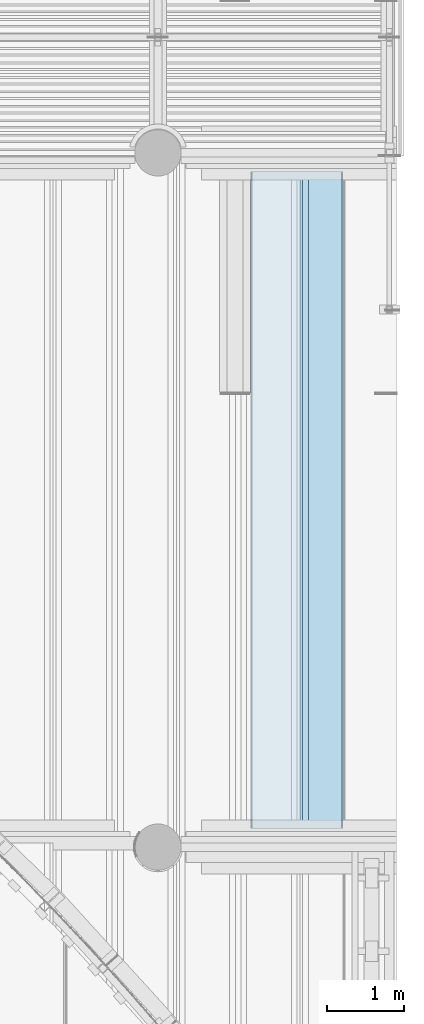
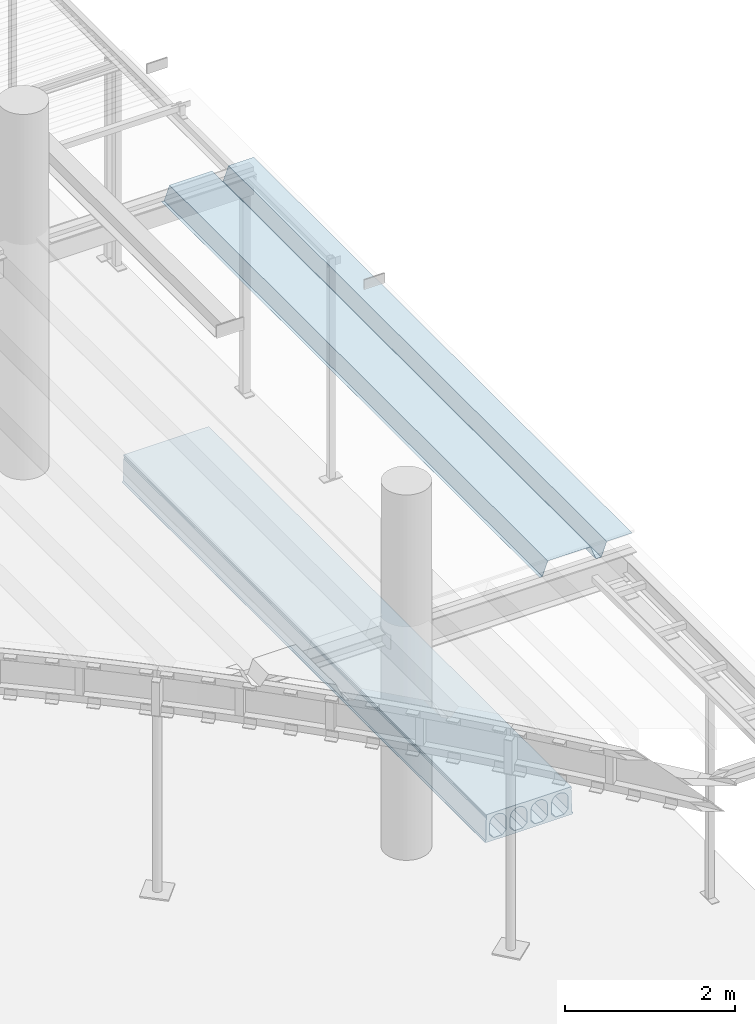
# One storey, part 74 of 98: 2 slabs.
"""IFC2X3 building model written with IfcOpenShell, lengths in millimetres."""

from ifc_helpers import new_model, entity, si_unit, converted_unit, derived_unit, direction, frame, origin_with_axes, place, context, subcontext, project, spatial, faceted_brep, material, type_object, element, save


model = new_model("IFC2X3")

# Units and contexts
model_context = context("Model", 3, precision=0.01, world=frame((0.0, 4.29681676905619e-09, 0.0)), true_north=direction((4.01073788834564e-13, 1.0)))
plan_context = context("Plan", 3, precision=0.01, world=frame((0.0, 4.29681676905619e-09, 0.0)), true_north=direction((4.01073788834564e-13, 1.0)))
body_context = subcontext(model_context, "Body", "Model", "MODEL_VIEW")
ifc_project = project(units=[converted_unit("PLANEANGLEUNIT", "DEGREE", entity("IfcPositiveLengthMeasure", 0.0174532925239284), si_unit("PLANEANGLEUNIT", "RADIAN"), dimensions=[0, 0, 0, 0, 0, 0, 0]), si_unit("AREAUNIT", "SQUARE_METRE"), si_unit("LENGTHUNIT", "METRE", prefix="MILLI"), si_unit("MASSUNIT", "GRAM", prefix="KILO"), si_unit("POWERUNIT", "WATT"), si_unit("PRESSUREUNIT", "PASCAL"), si_unit("FORCEUNIT", "NEWTON", prefix="KILO"), si_unit("ELECTRICCURRENTUNIT", "AMPERE"), si_unit("THERMODYNAMICTEMPERATUREUNIT", "DEGREE_CELSIUS"), si_unit("TIMEUNIT", "SECOND"), si_unit("VOLUMEUNIT", "CUBIC_METRE"), derived_unit("LINEARVELOCITYUNIT", [(si_unit("LENGTHUNIT", "METRE"), 1), (si_unit("TIMEUNIT", "SECOND"), -1)]), derived_unit("VOLUMETRICFLOWRATEUNIT", [(si_unit("VOLUMEUNIT", "CUBIC_METRE"), 1), (si_unit("TIMEUNIT", "SECOND"), -1)]), derived_unit("THERMALTRANSMITTANCEUNIT", [(si_unit("POWERUNIT", "WATT"), 1), (si_unit("THERMODYNAMICTEMPERATUREUNIT", "KELVIN"), -1), (si_unit("AREAUNIT", "SQUARE_METRE"), -1)])], contexts=[model_context, plan_context])

# Site, building, storey
site_placement = place(None, frame((0.0, -4.29681676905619e-09, 0.0), z_axis=(0.0, 0.0, 1.0), x_axis=(1.0, 0.0, 0.0)))
site = spatial("IfcSite", under=ifc_project, at=site_placement, Name="Gardermoen", CompositionType="ELEMENT")
building_placement = place(site_placement, frame((0.0, 4.29681676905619e-09, 0.0), z_axis=(0.0, 0.0, 1.0), x_axis=(1.0, 0.0, 0.0)))
building = spatial("IfcBuilding", under=site, at=building_placement, Name="TS", CompositionType="ELEMENT")
storey_placement = place(building_placement, origin_with_axes())
storey = spatial("IfcBuildingStorey", under=building, at=storey_placement, Name="D", CompositionType="ELEMENT", Elevation=0.0)

# Slabs
ifc_material = material(Name="CONCRETE/C45/55")
slab_type_1 = type_object("IfcSlabType", Name="HD400", PredefinedType="NOTDEFINED")
slab_1_placement = place(storey_placement, frame((530799.999766, 405739.995625, 203600.0), z_axis=(0.0, 0.0, 1.0), x_axis=(0.0, 1.0, 0.0)))
element("IfcSlab", 1, at=slab_1_placement, inside=storey, type_object=slab_type_1, material=ifc_material, Name="HULLDEKKE", ObjectType="HD400", PredefinedType="FLOOR", context=body_context, shape_type="Brep", body=[
    faceted_brep([(0.0, 600.0, -190.0), (0.0, 600.0, -180.0), (8520.00875000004, 600.0, -180.0), (8520.00875000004, 600.0, -190.0), (0.0, 585.0, -170.0), (8520.00875000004, 585.0, -170.0), (0.0, 577.5, 145.0), (8520.00875000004, 577.5, 145.0), (0.0, 570.0, 160.0), (8520.00875000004, 570.0, 160.0), (0.0, 577.5, 175.0), (8520.00875000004, 577.5, 175.0), (0.0, 577.5, 200.0), (8520.00875000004, 577.5, 200.0), (0.0, -577.5, 200.0), (8520.00875000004, -577.5, 200.0), (0.0, -577.5, 175.0), (8520.00875000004, -577.5, 175.0), (0.0, -570.0, 160.0), (8520.00875000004, -570.0, 160.0), (0.0, -577.5, 145.0), (8520.00875000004, -577.5, 145.0), (0.0, -585.0, -170.0), (8520.00875000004, -585.0, -170.0), (0.0, -600.0, -180.0), (8520.00875000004, -600.0, -180.0), (0.0, -600.0, -190.0), (8520.00875000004, -600.0, -190.0), (0.0, -583.380004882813, -200.0), (8520.00875000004, -583.380004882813, -200.0), (0.0, 583.380004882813, -200.0), (8520.00875000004, 583.380004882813, -200.0), (0.0, -362.5, -160.0), (0.0, -477.5, -160.0), (8520.00875000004, -477.5, -160.0), (8520.00875000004, -362.5, -160.0), (0.0, -532.5, -105.0), (8520.00875000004, -532.5, -105.0), (0.0, -532.5, 47.5), (8520.00875000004, -532.5, 47.5), (0.0, -532.115755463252, 56.7901763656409), (8520.00875000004, -532.115755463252, 56.7901763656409), (0.0, -530.965646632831, 66.0168914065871), (8520.00875000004, -530.965646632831, 66.0168914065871), (0.0, -529.057529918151, 75.1171173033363), (8520.00875000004, -529.057529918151, 75.1171173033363), (0.0, -526.404439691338, 84.028690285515), (8520.00875000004, -526.404439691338, 84.028690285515), (0.0, -523.024499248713, 92.6907352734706), (8520.00875000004, -523.024499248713, 92.6907352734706), (0.0, -518.940797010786, 101.044081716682), (8520.00875000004, -518.940797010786, 101.044081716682), (0.0, -514.181228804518, 109.031667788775), (8520.00875000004, -514.181228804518, 109.031667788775), (0.0, -508.778307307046, 116.598930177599), (8520.00875000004, -508.778307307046, 116.598930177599), (0.0, -502.768939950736, 123.694176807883), (8520.00875000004, -502.768939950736, 123.694176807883), (0.0, -496.194176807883, 130.268939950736), (8520.00875000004, -496.194176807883, 130.268939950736), (0.0, -489.098930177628, 136.278307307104), (8520.00875000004, -489.098930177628, 136.278307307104), (0.0, -481.531667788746, 141.681228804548), (8520.00875000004, -481.531667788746, 141.681228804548), (0.0, -473.544081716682, 146.440797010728), (8520.00875000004, -473.544081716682, 146.440797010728), (0.0, -465.190735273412, 150.524499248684), (8520.00875000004, -465.190735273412, 150.524499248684), (0.0, -456.528690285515, 153.904439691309), (8520.00875000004, -456.528690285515, 153.904439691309), (0.0, -447.617117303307, 156.55752991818), (8520.00875000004, -447.617117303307, 156.55752991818), (0.0, -438.516891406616, 158.465646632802), (8520.00875000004, -438.516891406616, 158.465646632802), (0.0, -429.290176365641, 159.615755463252), (8520.00875000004, -429.290176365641, 159.615755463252), (0.0, -420.0, 160.0), (8520.00875000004, -420.0, 160.0), (0.0, -410.709823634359, 159.615755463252), (8520.00875000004, -410.709823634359, 159.615755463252), (0.0, -401.483108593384, 158.465646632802), (8520.00875000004, -401.483108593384, 158.465646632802), (0.0, -392.382882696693, 156.55752991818), (8520.00875000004, -392.382882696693, 156.55752991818), (0.0, -383.471309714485, 153.904439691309), (8520.00875000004, -383.471309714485, 153.904439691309), (0.0, -374.809264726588, 150.524499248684), (8520.00875000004, -374.809264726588, 150.524499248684), (0.0, -366.455918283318, 146.440797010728), (8520.00875000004, -366.455918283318, 146.440797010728), (0.0, -358.468332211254, 141.681228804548), (8520.00875000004, -358.468332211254, 141.681228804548), (0.0, -350.901069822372, 136.278307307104), (8520.00875000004, -350.901069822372, 136.278307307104), (0.0, -343.805823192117, 130.268939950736), (8520.00875000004, -343.805823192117, 130.268939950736), (0.0, -337.231060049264, 123.694176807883), (8520.00875000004, -337.231060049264, 123.694176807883), (0.0, -331.221692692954, 116.598930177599), (8520.00875000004, -331.221692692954, 116.598930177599), (0.0, -325.818771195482, 109.031667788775), (8520.00875000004, -325.818771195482, 109.031667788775), (0.0, -321.059202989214, 101.044081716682), (8520.00875000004, -321.059202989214, 101.044081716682), (0.0, -316.975500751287, 92.6907352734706), (8520.00875000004, -316.975500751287, 92.6907352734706), (0.0, -313.595560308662, 84.028690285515), (8520.00875000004, -313.595560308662, 84.028690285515), (0.0, -310.942470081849, 75.1171173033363), (8520.00875000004, -310.942470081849, 75.1171173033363), (0.0, -309.034353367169, 66.0168914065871), (8520.00875000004, -309.034353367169, 66.0168914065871), (0.0, -307.884244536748, 56.7901763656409), (8520.00875000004, -307.884244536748, 56.7901763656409), (0.0, -307.5, 47.5), (8520.00875000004, -307.5, 47.5), (0.0, -307.5, -105.0), (8520.00875000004, -307.5, -105.0), (0.0, -82.5, -160.0), (0.0, -197.5, -160.0), (8520.00875000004, -197.5, -160.0), (8520.00875000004, -82.5, -160.0), (0.0, -252.5, -105.0), (8520.00875000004, -252.5, -105.0), (0.0, -252.5, 47.5), (8520.00875000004, -252.5, 47.5), (0.0, -252.115755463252, 56.7901763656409), (8520.00875000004, -252.115755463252, 56.7901763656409), (0.0, -250.965646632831, 66.0168914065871), (8520.00875000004, -250.965646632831, 66.0168914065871), (0.0, -249.057529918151, 75.1171173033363), (8520.00875000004, -249.057529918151, 75.1171173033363), (0.0, -246.404439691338, 84.028690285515), (8520.00875000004, -246.404439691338, 84.028690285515), (0.0, -243.024499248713, 92.6907352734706), (8520.00875000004, -243.024499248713, 92.6907352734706), (0.0, -238.940797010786, 101.044081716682), (8520.00875000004, -238.940797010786, 101.044081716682), (0.0, -234.181228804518, 109.031667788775), (8520.00875000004, -234.181228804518, 109.031667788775), (0.0, -228.778307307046, 116.598930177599), (8520.00875000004, -228.778307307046, 116.598930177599), (0.0, -222.768939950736, 123.694176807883), (8520.00875000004, -222.768939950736, 123.694176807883), (0.0, -216.194176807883, 130.268939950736), (8520.00875000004, -216.194176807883, 130.268939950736), (0.0, -209.098930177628, 136.278307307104), (8520.00875000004, -209.098930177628, 136.278307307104), (0.0, -201.531667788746, 141.681228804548), (8520.00875000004, -201.531667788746, 141.681228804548), (0.0, -193.544081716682, 146.440797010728), (8520.00875000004, -193.544081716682, 146.440797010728), (0.0, -185.190735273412, 150.524499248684), (8520.00875000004, -185.190735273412, 150.524499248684), (0.0, -176.528690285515, 153.904439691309), (8520.00875000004, -176.528690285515, 153.904439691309), (0.0, -167.617117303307, 156.55752991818), (8520.00875000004, -167.617117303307, 156.55752991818), (0.0, -158.516891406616, 158.465646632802), (8520.00875000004, -158.516891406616, 158.465646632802), (0.0, -149.290176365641, 159.615755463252), (8520.00875000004, -149.290176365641, 159.615755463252), (0.0, -140.0, 160.0), (8520.00875000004, -140.0, 160.0), (0.0, -130.709823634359, 159.615755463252), (8520.00875000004, -130.709823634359, 159.615755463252), (0.0, -121.483108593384, 158.465646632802), (8520.00875000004, -121.483108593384, 158.465646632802), (0.0, -112.382882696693, 156.55752991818), (8520.00875000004, -112.382882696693, 156.55752991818), (0.0, -103.471309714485, 153.904439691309), (8520.00875000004, -103.471309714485, 153.904439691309), (0.0, -94.8092647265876, 150.524499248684), (8520.00875000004, -94.8092647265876, 150.524499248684), (0.0, -86.4559182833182, 146.440797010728), (8520.00875000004, -86.4559182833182, 146.440797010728), (0.0, -78.4683322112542, 141.681228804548), (8520.00875000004, -78.4683322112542, 141.681228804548), (0.0, -70.9010698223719, 136.278307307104), (8520.00875000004, -70.9010698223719, 136.278307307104), (0.0, -63.8058231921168, 130.268939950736), (8520.00875000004, -63.8058231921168, 130.268939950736), (0.0, -57.2310600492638, 123.694176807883), (8520.00875000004, -57.2310600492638, 123.694176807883), (0.0, -51.2216926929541, 116.598930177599), (8520.00875000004, -51.2216926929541, 116.598930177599), (0.0, -45.8187711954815, 109.031667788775), (8520.00875000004, -45.8187711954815, 109.031667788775), (0.0, -41.0592029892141, 101.044081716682), (8520.00875000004, -41.0592029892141, 101.044081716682), (0.0, -36.9755007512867, 92.6907352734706), (8520.00875000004, -36.9755007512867, 92.6907352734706), (0.0, -33.5955603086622, 84.028690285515), (8520.00875000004, -33.5955603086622, 84.028690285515), (0.0, -30.942470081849, 75.1171173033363), (8520.00875000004, -30.942470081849, 75.1171173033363), (0.0, -29.0343533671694, 66.0168914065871), (8520.00875000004, -29.0343533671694, 66.0168914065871), (0.0, -27.8842445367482, 56.7901763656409), (8520.00875000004, -27.8842445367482, 56.7901763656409), (0.0, -27.5, 47.5), (8520.00875000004, -27.5, 47.5), (0.0, -27.5, -105.0), (8520.00875000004, -27.5, -105.0), (0.0, 197.5, -160.0), (0.0, 82.5, -160.0), (8520.00875000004, 82.5, -160.0), (8520.00875000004, 197.5, -160.0), (0.0, 27.5, -105.0), (8520.00875000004, 27.5, -105.0), (0.0, 27.5, 47.5), (8520.00875000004, 27.5, 47.5), (0.0, 27.8842445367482, 56.7901763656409), (8520.00875000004, 27.8842445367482, 56.7901763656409), (0.0, 29.0343533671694, 66.0168914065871), (8520.00875000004, 29.0343533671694, 66.0168914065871), (0.0, 30.942470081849, 75.1171173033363), (8520.00875000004, 30.942470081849, 75.1171173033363), (0.0, 33.5955603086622, 84.028690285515), (8520.00875000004, 33.5955603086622, 84.028690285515), (0.0, 36.9755007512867, 92.6907352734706), (8520.00875000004, 36.9755007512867, 92.6907352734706), (0.0, 41.0592029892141, 101.044081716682), (8520.00875000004, 41.0592029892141, 101.044081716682), (0.0, 45.8187711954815, 109.031667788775), (8520.00875000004, 45.8187711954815, 109.031667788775), (0.0, 51.2216926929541, 116.598930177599), (8520.00875000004, 51.2216926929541, 116.598930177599), (0.0, 57.2310600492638, 123.694176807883), (8520.00875000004, 57.2310600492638, 123.694176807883), (0.0, 63.8058231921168, 130.268939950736), (8520.00875000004, 63.8058231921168, 130.268939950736), (0.0, 70.9010698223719, 136.278307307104), (8520.00875000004, 70.9010698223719, 136.278307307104), (0.0, 78.4683322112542, 141.681228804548), (8520.00875000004, 78.4683322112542, 141.681228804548), (0.0, 86.4559182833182, 146.440797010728), (8520.00875000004, 86.4559182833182, 146.440797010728), (0.0, 94.8092647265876, 150.524499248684), (8520.00875000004, 94.8092647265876, 150.524499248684), (0.0, 103.471309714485, 153.904439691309), (8520.00875000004, 103.471309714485, 153.904439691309), (0.0, 112.382882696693, 156.55752991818), (8520.00875000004, 112.382882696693, 156.55752991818), (0.0, 121.483108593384, 158.465646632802), (8520.00875000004, 121.483108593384, 158.465646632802), (0.0, 130.709823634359, 159.615755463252), (8520.00875000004, 130.709823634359, 159.615755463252), (0.0, 140.0, 160.0), (8520.00875000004, 140.0, 160.0), (0.0, 149.290176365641, 159.615755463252), (8520.00875000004, 149.290176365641, 159.615755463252), (0.0, 158.516891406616, 158.465646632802), (8520.00875000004, 158.516891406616, 158.465646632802), (0.0, 167.617117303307, 156.55752991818), (8520.00875000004, 167.617117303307, 156.55752991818), (0.0, 176.528690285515, 153.904439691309), (8520.00875000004, 176.528690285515, 153.904439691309), (0.0, 185.190735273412, 150.524499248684), (8520.00875000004, 185.190735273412, 150.524499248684), (0.0, 193.544081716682, 146.440797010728), (8520.00875000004, 193.544081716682, 146.440797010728), (0.0, 201.531667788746, 141.681228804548), (8520.00875000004, 201.531667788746, 141.681228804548), (0.0, 209.098930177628, 136.278307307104), (8520.00875000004, 209.098930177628, 136.278307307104), (0.0, 216.194176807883, 130.268939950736), (8520.00875000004, 216.194176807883, 130.268939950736), (0.0, 222.768939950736, 123.694176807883), (8520.00875000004, 222.768939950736, 123.694176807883), (0.0, 228.778307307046, 116.598930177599), (8520.00875000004, 228.778307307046, 116.598930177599), (0.0, 234.181228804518, 109.031667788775), (8520.00875000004, 234.181228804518, 109.031667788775), (0.0, 238.940797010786, 101.044081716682), (8520.00875000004, 238.940797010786, 101.044081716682), (0.0, 243.024499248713, 92.6907352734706), (8520.00875000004, 243.024499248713, 92.6907352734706), (0.0, 246.404439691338, 84.028690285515), (8520.00875000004, 246.404439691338, 84.028690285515), (0.0, 249.057529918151, 75.1171173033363), (8520.00875000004, 249.057529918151, 75.1171173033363), (0.0, 250.965646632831, 66.0168914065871), (8520.00875000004, 250.965646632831, 66.0168914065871), (0.0, 252.115755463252, 56.7901763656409), (8520.00875000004, 252.115755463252, 56.7901763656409), (0.0, 252.5, 47.5), (8520.00875000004, 252.5, 47.5), (0.0, 252.5, -105.0), (8520.00875000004, 252.5, -105.0), (0.0, 477.5, -160.0), (0.0, 362.5, -160.0), (8520.00875000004, 362.5, -160.0), (8520.00875000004, 477.5, -160.0), (0.0, 307.5, -105.0), (8520.00875000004, 307.5, -105.0), (0.0, 307.5, 47.5), (8520.00875000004, 307.5, 47.5), (0.0, 307.884244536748, 56.7901763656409), (8520.00875000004, 307.884244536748, 56.7901763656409), (0.0, 309.034353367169, 66.0168914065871), (8520.00875000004, 309.034353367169, 66.0168914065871), (0.0, 310.942470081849, 75.1171173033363), (8520.00875000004, 310.942470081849, 75.1171173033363), (0.0, 313.595560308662, 84.028690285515), (8520.00875000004, 313.595560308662, 84.028690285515), (0.0, 316.975500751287, 92.6907352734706), (8520.00875000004, 316.975500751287, 92.6907352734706), (0.0, 321.059202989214, 101.044081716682), (8520.00875000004, 321.059202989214, 101.044081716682), (0.0, 325.818771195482, 109.031667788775), (8520.00875000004, 325.818771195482, 109.031667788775), (0.0, 331.221692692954, 116.598930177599), (8520.00875000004, 331.221692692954, 116.598930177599), (0.0, 337.231060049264, 123.694176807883), (8520.00875000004, 337.231060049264, 123.694176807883), (0.0, 343.805823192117, 130.268939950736), (8520.00875000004, 343.805823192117, 130.268939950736), (0.0, 350.901069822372, 136.278307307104), (8520.00875000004, 350.901069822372, 136.278307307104), (0.0, 358.468332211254, 141.681228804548), (8520.00875000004, 358.468332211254, 141.681228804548), (0.0, 366.455918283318, 146.440797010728), (8520.00875000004, 366.455918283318, 146.440797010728), (0.0, 374.809264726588, 150.524499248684), (8520.00875000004, 374.809264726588, 150.524499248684), (0.0, 383.471309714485, 153.904439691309), (8520.00875000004, 383.471309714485, 153.904439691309), (0.0, 392.382882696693, 156.55752991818), (8520.00875000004, 392.382882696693, 156.55752991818), (0.0, 401.483108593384, 158.465646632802), (8520.00875000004, 401.483108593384, 158.465646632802), (0.0, 410.709823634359, 159.615755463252), (8520.00875000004, 410.709823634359, 159.615755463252), (0.0, 420.0, 160.0), (8520.00875000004, 420.0, 160.0), (0.0, 429.290176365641, 159.615755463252), (8520.00875000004, 429.290176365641, 159.615755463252), (0.0, 438.516891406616, 158.465646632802), (8520.00875000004, 438.516891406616, 158.465646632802), (0.0, 447.617117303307, 156.55752991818), (8520.00875000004, 447.617117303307, 156.55752991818), (0.0, 456.528690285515, 153.904439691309), (8520.00875000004, 456.528690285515, 153.904439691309), (0.0, 465.190735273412, 150.524499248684), (8520.00875000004, 465.190735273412, 150.524499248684), (0.0, 473.544081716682, 146.440797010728), (8520.00875000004, 473.544081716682, 146.440797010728), (0.0, 481.531667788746, 141.681228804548), (8520.00875000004, 481.531667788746, 141.681228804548), (0.0, 489.098930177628, 136.278307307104), (8520.00875000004, 489.098930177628, 136.278307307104), (0.0, 496.194176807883, 130.268939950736), (8520.00875000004, 496.194176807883, 130.268939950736), (0.0, 502.768939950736, 123.694176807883), (8520.00875000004, 502.768939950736, 123.694176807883), (0.0, 508.778307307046, 116.598930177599), (8520.00875000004, 508.778307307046, 116.598930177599), (0.0, 514.181228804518, 109.031667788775), (8520.00875000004, 514.181228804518, 109.031667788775), (0.0, 518.940797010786, 101.044081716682), (8520.00875000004, 518.940797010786, 101.044081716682), (0.0, 523.024499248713, 92.6907352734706), (8520.00875000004, 523.024499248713, 92.6907352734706), (0.0, 526.404439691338, 84.028690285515), (8520.00875000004, 526.404439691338, 84.028690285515), (0.0, 529.057529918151, 75.1171173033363), (8520.00875000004, 529.057529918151, 75.1171173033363), (0.0, 530.965646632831, 66.0168914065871), (8520.00875000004, 530.965646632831, 66.0168914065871), (0.0, 532.115755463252, 56.7901763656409), (8520.00875000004, 532.115755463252, 56.7901763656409), (0.0, 532.5, 47.5), (8520.00875000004, 532.5, 47.5), (0.0, 532.5, -105.0), (8520.00875000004, 532.5, -105.0)], [[[0, 1, 2, 3]], [[1, 4, 5, 2]], [[4, 6, 7, 5]], [[6, 8, 9, 7]], [[8, 10, 11, 9]], [[10, 12, 13, 11]], [[12, 14, 15, 13]], [[14, 16, 17, 15]], [[16, 18, 19, 17]], [[18, 20, 21, 19]], [[20, 22, 23, 21]], [[22, 24, 25, 23]], [[24, 26, 27, 25]], [[26, 28, 29, 27]], [[28, 30, 31, 29]], [[30, 0, 3, 31]], [[32, 33, 34, 35]], [[33, 36, 37, 34]], [[36, 38, 39, 37]], [[38, 40, 41, 39]], [[40, 42, 43, 41]], [[42, 44, 45, 43]], [[44, 46, 47, 45]], [[46, 48, 49, 47]], [[48, 50, 51, 49]], [[50, 52, 53, 51]], [[52, 54, 55, 53]], [[54, 56, 57, 55]], [[56, 58, 59, 57]], [[58, 60, 61, 59]], [[60, 62, 63, 61]], [[62, 64, 65, 63]], [[64, 66, 67, 65]], [[66, 68, 69, 67]], [[68, 70, 71, 69]], [[70, 72, 73, 71]], [[72, 74, 75, 73]], [[74, 76, 77, 75]], [[76, 78, 79, 77]], [[78, 80, 81, 79]], [[80, 82, 83, 81]], [[82, 84, 85, 83]], [[84, 86, 87, 85]], [[86, 88, 89, 87]], [[88, 90, 91, 89]], [[90, 92, 93, 91]], [[92, 94, 95, 93]], [[94, 96, 97, 95]], [[96, 98, 99, 97]], [[98, 100, 101, 99]], [[100, 102, 103, 101]], [[102, 104, 105, 103]], [[104, 106, 107, 105]], [[106, 108, 109, 107]], [[108, 110, 111, 109]], [[110, 112, 113, 111]], [[112, 114, 115, 113]], [[114, 116, 117, 115]], [[116, 32, 35, 117]], [[118, 119, 120, 121]], [[119, 122, 123, 120]], [[122, 124, 125, 123]], [[124, 126, 127, 125]], [[126, 128, 129, 127]], [[128, 130, 131, 129]], [[130, 132, 133, 131]], [[132, 134, 135, 133]], [[134, 136, 137, 135]], [[136, 138, 139, 137]], [[138, 140, 141, 139]], [[140, 142, 143, 141]], [[142, 144, 145, 143]], [[144, 146, 147, 145]], [[146, 148, 149, 147]], [[148, 150, 151, 149]], [[150, 152, 153, 151]], [[152, 154, 155, 153]], [[154, 156, 157, 155]], [[156, 158, 159, 157]], [[158, 160, 161, 159]], [[160, 162, 163, 161]], [[162, 164, 165, 163]], [[164, 166, 167, 165]], [[166, 168, 169, 167]], [[168, 170, 171, 169]], [[170, 172, 173, 171]], [[172, 174, 175, 173]], [[174, 176, 177, 175]], [[176, 178, 179, 177]], [[178, 180, 181, 179]], [[180, 182, 183, 181]], [[182, 184, 185, 183]], [[184, 186, 187, 185]], [[186, 188, 189, 187]], [[188, 190, 191, 189]], [[190, 192, 193, 191]], [[192, 194, 195, 193]], [[194, 196, 197, 195]], [[196, 198, 199, 197]], [[198, 200, 201, 199]], [[200, 202, 203, 201]], [[202, 118, 121, 203]], [[204, 205, 206, 207]], [[205, 208, 209, 206]], [[208, 210, 211, 209]], [[210, 212, 213, 211]], [[212, 214, 215, 213]], [[214, 216, 217, 215]], [[216, 218, 219, 217]], [[218, 220, 221, 219]], [[220, 222, 223, 221]], [[222, 224, 225, 223]], [[224, 226, 227, 225]], [[226, 228, 229, 227]], [[228, 230, 231, 229]], [[230, 232, 233, 231]], [[232, 234, 235, 233]], [[234, 236, 237, 235]], [[236, 238, 239, 237]], [[238, 240, 241, 239]], [[240, 242, 243, 241]], [[242, 244, 245, 243]], [[244, 246, 247, 245]], [[246, 248, 249, 247]], [[248, 250, 251, 249]], [[250, 252, 253, 251]], [[252, 254, 255, 253]], [[254, 256, 257, 255]], [[256, 258, 259, 257]], [[258, 260, 261, 259]], [[260, 262, 263, 261]], [[262, 264, 265, 263]], [[264, 266, 267, 265]], [[266, 268, 269, 267]], [[268, 270, 271, 269]], [[270, 272, 273, 271]], [[272, 274, 275, 273]], [[274, 276, 277, 275]], [[276, 278, 279, 277]], [[278, 280, 281, 279]], [[280, 282, 283, 281]], [[282, 284, 285, 283]], [[284, 286, 287, 285]], [[286, 288, 289, 287]], [[288, 204, 207, 289]], [[290, 291, 292, 293]], [[291, 294, 295, 292]], [[294, 296, 297, 295]], [[296, 298, 299, 297]], [[298, 300, 301, 299]], [[300, 302, 303, 301]], [[302, 304, 305, 303]], [[304, 306, 307, 305]], [[306, 308, 309, 307]], [[308, 310, 311, 309]], [[310, 312, 313, 311]], [[312, 314, 315, 313]], [[314, 316, 317, 315]], [[316, 318, 319, 317]], [[318, 320, 321, 319]], [[320, 322, 323, 321]], [[322, 324, 325, 323]], [[324, 326, 327, 325]], [[326, 328, 329, 327]], [[328, 330, 331, 329]], [[330, 332, 333, 331]], [[332, 334, 335, 333]], [[334, 336, 337, 335]], [[336, 338, 339, 337]], [[338, 340, 341, 339]], [[340, 342, 343, 341]], [[342, 344, 345, 343]], [[344, 346, 347, 345]], [[346, 348, 349, 347]], [[348, 350, 351, 349]], [[350, 352, 353, 351]], [[352, 354, 355, 353]], [[354, 356, 357, 355]], [[356, 358, 359, 357]], [[358, 360, 361, 359]], [[360, 362, 363, 361]], [[362, 364, 365, 363]], [[364, 366, 367, 365]], [[366, 368, 369, 367]], [[368, 370, 371, 369]], [[370, 372, 373, 371]], [[372, 374, 375, 373]], [[374, 290, 293, 375]], [[5, 7, 9, 11, 13, 15, 17, 19, 21, 23, 25, 27, 29, 31, 3, 2], [295, 297, 299, 301, 303, 305, 307, 309, 311, 313, 315, 317, 319, 321, 323, 325, 327, 329, 331, 333, 335, 337, 339, 341, 343, 345, 347, 349, 351, 353, 355, 357, 359, 361, 363, 365, 367, 369, 371, 373, 375, 293, 292], [209, 211, 213, 215, 217, 219, 221, 223, 225, 227, 229, 231, 233, 235, 237, 239, 241, 243, 245, 247, 249, 251, 253, 255, 257, 259, 261, 263, 265, 267, 269, 271, 273, 275, 277, 279, 281, 283, 285, 287, 289, 207, 206], [123, 125, 127, 129, 131, 133, 135, 137, 139, 141, 143, 145, 147, 149, 151, 153, 155, 157, 159, 161, 163, 165, 167, 169, 171, 173, 175, 177, 179, 181, 183, 185, 187, 189, 191, 193, 195, 197, 199, 201, 203, 121, 120], [37, 39, 41, 43, 45, 47, 49, 51, 53, 55, 57, 59, 61, 63, 65, 67, 69, 71, 73, 75, 77, 79, 81, 83, 85, 87, 89, 91, 93, 95, 97, 99, 101, 103, 105, 107, 109, 111, 113, 115, 117, 35, 34]], [[30, 28, 26, 24, 22, 20, 18, 16, 14, 12, 10, 8, 6, 4, 1, 0], [374, 372, 370, 368, 366, 364, 362, 360, 358, 356, 354, 352, 350, 348, 346, 344, 342, 340, 338, 336, 334, 332, 330, 328, 326, 324, 322, 320, 318, 316, 314, 312, 310, 308, 306, 304, 302, 300, 298, 296, 294, 291, 290], [288, 286, 284, 282, 280, 278, 276, 274, 272, 270, 268, 266, 264, 262, 260, 258, 256, 254, 252, 250, 248, 246, 244, 242, 240, 238, 236, 234, 232, 230, 228, 226, 224, 222, 220, 218, 216, 214, 212, 210, 208, 205, 204], [202, 200, 198, 196, 194, 192, 190, 188, 186, 184, 182, 180, 178, 176, 174, 172, 170, 168, 166, 164, 162, 160, 158, 156, 154, 152, 150, 148, 146, 144, 142, 140, 138, 136, 134, 132, 130, 128, 126, 124, 122, 119, 118], [116, 114, 112, 110, 108, 106, 104, 102, 100, 98, 96, 94, 92, 90, 88, 86, 84, 82, 80, 78, 76, 74, 72, 70, 68, 66, 64, 62, 60, 58, 56, 54, 52, 50, 48, 46, 44, 42, 40, 38, 36, 33, 32]]]),
])
slab_type_2 = type_object("IfcSlabType", Name="PLANNJA200", PredefinedType="NOTDEFINED")
slab_2_placement = place(storey_placement, frame((531640.35, 405554.98, 207199.0), z_axis=(0.0, 0.0, 1.0), x_axis=(0.0, 1.0, 0.0)))
element("IfcSlab", 2, at=slab_2_placement, inside=storey, type_object=slab_type_2, Name="STÅLTAK", ObjectType="PLANNJA200", PredefinedType="FLOOR", context=body_context, shape_type="Brep", body=[
    faceted_brep([(8889.99999999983, 800.0, -98.5), (8889.99999999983, 763.196472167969, -98.5), (0.0, 763.196472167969, -98.5), (0.0, 800.0, -98.5), (8889.99999999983, 690.0, 99.5), (0.0, 690.0, 99.5), (8889.99999999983, 110.0, 99.5), (0.0, 110.0, 99.5), (8889.99999999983, 36.8035354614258, -98.5), (0.0, 36.8035354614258, -98.5), (8889.99999999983, -36.8035354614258, -98.5), (0.0, -36.8035354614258, -98.5), (8889.99999999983, -110.0, 99.5), (0.0, -110.0, 99.5), (8889.99999999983, -454.650000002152, 99.5), (0.0, -454.650000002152, 99.5), (0.0, -454.650000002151, 98.5), (8889.99999999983, -454.650000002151, 98.5), (8889.99999999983, -110.696464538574, 98.5), (0.0, -110.696464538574, 98.5), (8889.99999999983, -37.5, -99.5), (0.0, -37.5, -99.5), (8889.99999999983, 37.5, -99.5), (0.0, 37.5, -99.5), (8889.99999999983, 110.696464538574, 98.5), (0.0, 110.696464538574, 98.5), (8889.99999999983, 689.303527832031, 98.5), (0.0, 689.303527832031, 98.5), (8889.99999999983, 762.5, -99.5), (0.0, 762.5, -99.5), (8889.99999999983, 800.0, -99.5), (0.0, 800.0, -99.5)], [[[0, 1, 2, 3]], [[1, 4, 5, 2]], [[4, 6, 7, 5]], [[6, 8, 9, 7]], [[8, 10, 11, 9]], [[10, 12, 13, 11]], [[14, 15, 13, 12]], [[16, 17, 18, 19]], [[18, 20, 21, 19]], [[20, 22, 23, 21]], [[22, 24, 25, 23]], [[24, 26, 27, 25]], [[26, 28, 29, 27]], [[28, 30, 31, 29]], [[30, 0, 3, 31]], [[17, 14, 12, 10, 8, 6, 4, 1, 0, 30, 28, 26, 24, 22, 20, 18]], [[15, 16, 19, 21, 23, 25, 27, 29, 31, 3, 2, 5, 7, 9, 11, 13]], [[17, 16, 15, 14]]], orient=[[False], [False], [False], [False], [False], [False], [False], [False], [False], [False], [False], [False], [False], [False], [False], [False], [False], [False]]),
])

save(model, "model.ifc")
